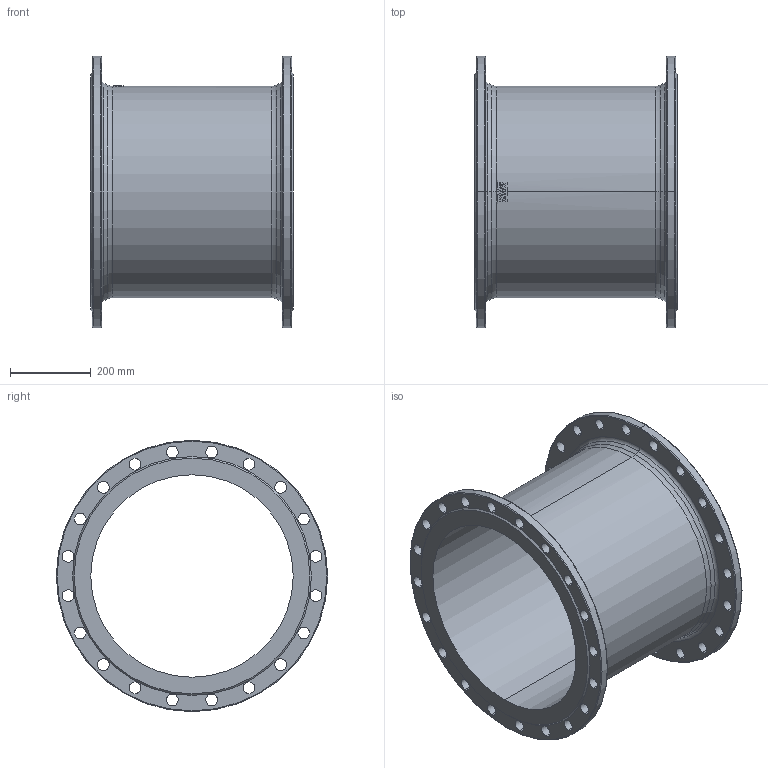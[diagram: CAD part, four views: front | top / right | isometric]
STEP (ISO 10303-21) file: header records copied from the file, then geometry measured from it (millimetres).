
FILE_DESCRIPTION (( 'STEP AP203' ), '1' );
FILE_NAME ('O_712_4810_DN500_0X_REV01.step', '2021-12-02T08:07:00', ( '' ), ( '' ), 'SwSTEP 2.0', 'SolidWorks 2019', '' );
FILE_SCHEMA (( 'CONFIG_CONTROL_DESIGN' ));
Length unit declared in the file: millimetre
Products named in the file (1): O_712_4810_DN500_0X_REV01
Bounding box: 500 x 670 x 670 mm (x, y, z)
Volume: 15299963.5 mm3; surface area: 2201182.3 mm2
Topology: 1 solids, 1 shells, 160 faces, 431 edges, 280 vertices
Faces by surface type: cylinder 93, plane 26, bspline 17, torus 16, cone 8
Entity records: 5974 total; most frequent: CARTESIAN_POINT 1591, DIRECTION 939, ORIENTED_EDGE 862, EDGE_CURVE 431, AXIS2_PLACEMENT_3D 398, VERTEX_POINT 280, CIRCLE 254, EDGE_LOOP 249
